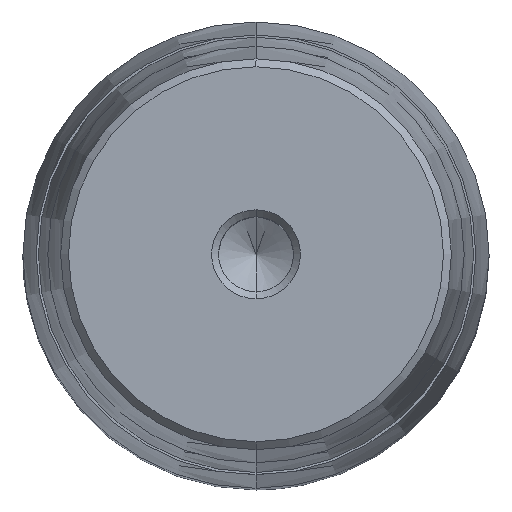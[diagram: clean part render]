
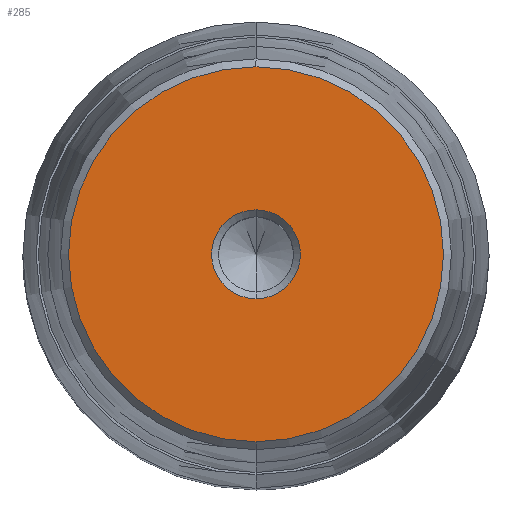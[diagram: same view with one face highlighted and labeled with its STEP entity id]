
A CAD part, top view. The second image highlights one B-rep face of the part: STEP entity #285.
In plain terms, the highlighted planar face has unit normal (0, 0, 1).
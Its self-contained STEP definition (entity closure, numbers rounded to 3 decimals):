
#164=CARTESIAN_POINT('Axis2P3D Location',(0.,0.,69.)) ;
#168=CARTESIAN_POINT('Vertex',(6.,0.,69.)) ;
#170=CARTESIAN_POINT('Vertex',(0.,-6.,69.)) ;
#173=CARTESIAN_POINT('Axis2P3D Location',(0.,0.,69.)) ;
#177=CARTESIAN_POINT('Vertex',(0.,6.,69.)) ;
#228=CARTESIAN_POINT('Axis2P3D Location',(0.,6.,69.)) ;
#233=CARTESIAN_POINT('Axis2P3D Location',(0.,0.,69.)) ;
#237=CARTESIAN_POINT('Vertex',(0.,25.325,69.)) ;
#239=CARTESIAN_POINT('Vertex',(25.325,0.,69.)) ;
#242=CARTESIAN_POINT('Axis2P3D Location',(0.,0.,69.)) ;
#246=CARTESIAN_POINT('Vertex',(-25.325,0.,69.)) ;
#249=CARTESIAN_POINT('Axis2P3D Location',(0.,0.,69.)) ;
#253=CARTESIAN_POINT('Vertex',(0.,-25.325,69.)) ;
#256=CARTESIAN_POINT('Axis2P3D Location',(0.,0.,69.)) ;
#267=CARTESIAN_POINT('Axis2P3D Location',(0.,0.,69.)) ;
#271=CARTESIAN_POINT('Vertex',(-6.,0.,69.)) ;
#274=CARTESIAN_POINT('Axis2P3D Location',(0.,0.,69.)) ;
#165=DIRECTION('Axis2P3D Direction',(0.,0.,1.)) ;
#174=DIRECTION('Axis2P3D Direction',(0.,0.,1.)) ;
#229=DIRECTION('Axis2P3D Direction',(-0.,0.,-1.)) ;
#230=DIRECTION('Axis2P3D XDirection',(0.,1.,0.)) ;
#234=DIRECTION('Axis2P3D Direction',(-0.,0.,-1.)) ;
#243=DIRECTION('Axis2P3D Direction',(-0.,0.,-1.)) ;
#250=DIRECTION('Axis2P3D Direction',(-0.,0.,-1.)) ;
#257=DIRECTION('Axis2P3D Direction',(-0.,0.,-1.)) ;
#268=DIRECTION('Axis2P3D Direction',(-0.,0.,-1.)) ;
#275=DIRECTION('Axis2P3D Direction',(-0.,0.,-1.)) ;
#166=AXIS2_PLACEMENT_3D('Circle Axis2P3D',#164,#165,$) ;
#175=AXIS2_PLACEMENT_3D('Circle Axis2P3D',#173,#174,$) ;
#231=AXIS2_PLACEMENT_3D('Plane Axis2P3D',#228,#229,#230) ;
#235=AXIS2_PLACEMENT_3D('Circle Axis2P3D',#233,#234,$) ;
#244=AXIS2_PLACEMENT_3D('Circle Axis2P3D',#242,#243,$) ;
#251=AXIS2_PLACEMENT_3D('Circle Axis2P3D',#249,#250,$) ;
#258=AXIS2_PLACEMENT_3D('Circle Axis2P3D',#256,#257,$) ;
#269=AXIS2_PLACEMENT_3D('Circle Axis2P3D',#267,#268,$) ;
#276=AXIS2_PLACEMENT_3D('Circle Axis2P3D',#274,#275,$) ;
#262=ORIENTED_EDGE('',*,*,#241,.F.) ;
#263=ORIENTED_EDGE('',*,*,#248,.F.) ;
#264=ORIENTED_EDGE('',*,*,#255,.F.) ;
#265=ORIENTED_EDGE('',*,*,#260,.F.) ;
#280=ORIENTED_EDGE('',*,*,#172,.T.) ;
#281=ORIENTED_EDGE('',*,*,#273,.T.) ;
#282=ORIENTED_EDGE('',*,*,#278,.T.) ;
#283=ORIENTED_EDGE('',*,*,#179,.T.) ;
#284=FACE_BOUND('',#279,.T.) ;
#285=ADVANCED_FACE('722-63x160x211',(#266,#284),#232,.F.) ;
#167=CIRCLE('generated circle',#166,6.) ;
#176=CIRCLE('generated circle',#175,6.) ;
#236=CIRCLE('generated circle',#235,25.325) ;
#245=CIRCLE('generated circle',#244,25.325) ;
#252=CIRCLE('generated circle',#251,25.325) ;
#259=CIRCLE('generated circle',#258,25.325) ;
#270=CIRCLE('generated circle',#269,6.) ;
#277=CIRCLE('generated circle',#276,6.) ;
#172=EDGE_CURVE('',#169,#171,#167,.F.) ;
#179=EDGE_CURVE('',#178,#169,#176,.F.) ;
#241=EDGE_CURVE('',#238,#240,#236,.T.) ;
#248=EDGE_CURVE('',#247,#238,#245,.T.) ;
#255=EDGE_CURVE('',#254,#247,#252,.T.) ;
#260=EDGE_CURVE('',#240,#254,#259,.T.) ;
#273=EDGE_CURVE('',#171,#272,#270,.T.) ;
#278=EDGE_CURVE('',#272,#178,#277,.T.) ;
#261=EDGE_LOOP('',(#262,#263,#264,#265)) ;
#279=EDGE_LOOP('',(#280,#281,#282,#283)) ;
#266=FACE_OUTER_BOUND('',#261,.T.) ;
#232=PLANE('Plane',#231) ;
#169=VERTEX_POINT('',#168) ;
#171=VERTEX_POINT('',#170) ;
#178=VERTEX_POINT('',#177) ;
#238=VERTEX_POINT('',#237) ;
#240=VERTEX_POINT('',#239) ;
#247=VERTEX_POINT('',#246) ;
#254=VERTEX_POINT('',#253) ;
#272=VERTEX_POINT('',#271) ;
